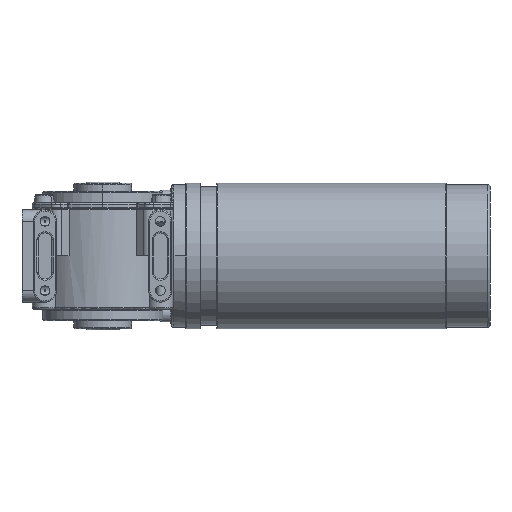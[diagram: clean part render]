
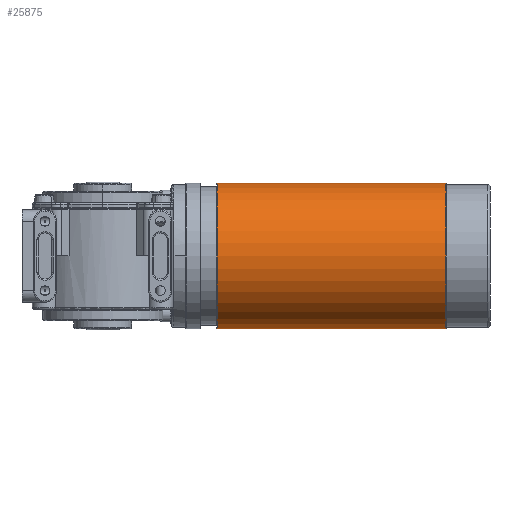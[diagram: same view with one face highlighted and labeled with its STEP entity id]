
A CAD part, front view. The second image highlights one B-rep face of the part: STEP entity #25875.
In plain terms, the highlighted cylindrical face has radius 31.5 mm (diameter 63 mm), a partial arc.
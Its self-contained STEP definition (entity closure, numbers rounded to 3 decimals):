
#1234 = VECTOR ( 'NONE', #11509, 1000. ) ;
#1394 = AXIS2_PLACEMENT_3D ( 'NONE', #1890, #10463, #25407 ) ;
#1739 = VERTEX_POINT ( 'NONE', #22028 ) ;
#1890 = CARTESIAN_POINT ( 'NONE',  ( -0.08, 27.821, 0. ) ) ;
#3595 = DIRECTION ( 'NONE',  ( 0., 0., -1. ) ) ;
#4051 = VERTEX_POINT ( 'NONE', #18642 ) ;
#4173 = ORIENTED_EDGE ( 'NONE', *, *, #10266, .F. ) ;
#5441 = CARTESIAN_POINT ( 'NONE',  ( -0.08, 27.821, -31.5 ) ) ;
#7872 = CIRCLE ( 'NONE', #27099, 31.5 ) ;
#8059 = DIRECTION ( 'NONE',  ( 1., 0., 0. ) ) ;
#9490 = ORIENTED_EDGE ( 'NONE', *, *, #17741, .T. ) ;
#9764 = EDGE_CURVE ( 'NONE', #27495, #4051, #23776, .T. ) ;
#10266 = EDGE_CURVE ( 'NONE', #26314, #4051, #21687, .T. ) ;
#10463 = DIRECTION ( 'NONE',  ( -1., 0., 0. ) ) ;
#10680 = CARTESIAN_POINT ( 'NONE',  ( -99.18, 27.821, 31.5 ) ) ;
#11509 = DIRECTION ( 'NONE',  ( 1., 0., 0. ) ) ;
#12555 = CARTESIAN_POINT ( 'NONE',  ( -99.18, 27.821, 0. ) ) ;
#14143 = ORIENTED_EDGE ( 'NONE', *, *, #9764, .T. ) ;
#16472 = AXIS2_PLACEMENT_3D ( 'NONE', #16548, #8059, #22490 ) ;
#16548 = CARTESIAN_POINT ( 'NONE',  ( 19.12, 27.821, 0. ) ) ;
#16589 = DIRECTION ( 'NONE',  ( 1., 0., 0. ) ) ;
#17741 = EDGE_CURVE ( 'NONE', #26314, #1739, #7872, .T. ) ;
#18633 = FACE_OUTER_BOUND ( 'NONE', #26542, .T. ) ;
#18642 = CARTESIAN_POINT ( 'NONE',  ( -0.08, 27.821, 31.5 ) ) ;
#19430 = DIRECTION ( 'NONE',  ( 1., 0., 0. ) ) ;
#19712 = LINE ( 'NONE', #26614, #1234 ) ;
#21687 = LINE ( 'NONE', #25644, #25623 ) ;
#22028 = CARTESIAN_POINT ( 'NONE',  ( -99.18, 27.821, -31.5 ) ) ;
#22490 = DIRECTION ( 'NONE',  ( 0., 0., -1. ) ) ;
#23694 = ORIENTED_EDGE ( 'NONE', *, *, #24471, .T. ) ;
#23776 = CIRCLE ( 'NONE', #1394, 31.5 ) ;
#24471 = EDGE_CURVE ( 'NONE', #1739, #27495, #19712, .T. ) ;
#24719 = CYLINDRICAL_SURFACE ( 'NONE', #16472, 31.5 ) ;
#25407 = DIRECTION ( 'NONE',  ( 0., 0., 1. ) ) ;
#25623 = VECTOR ( 'NONE', #19430, 1000. ) ;
#25644 = CARTESIAN_POINT ( 'NONE',  ( 19.12, 27.821, 31.5 ) ) ;
#25875 = ADVANCED_FACE ( 'NONE', ( #18633 ), #24719, .T. ) ;
#26314 = VERTEX_POINT ( 'NONE', #10680 ) ;
#26542 = EDGE_LOOP ( 'NONE', ( #4173, #9490, #23694, #14143 ) ) ;
#26614 = CARTESIAN_POINT ( 'NONE',  ( 19.12, 27.821, -31.5 ) ) ;
#27099 = AXIS2_PLACEMENT_3D ( 'NONE', #12555, #16589, #3595 ) ;
#27495 = VERTEX_POINT ( 'NONE', #5441 ) ;
